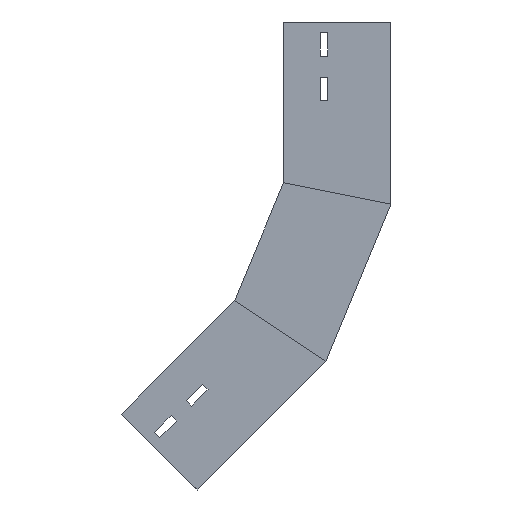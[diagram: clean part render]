
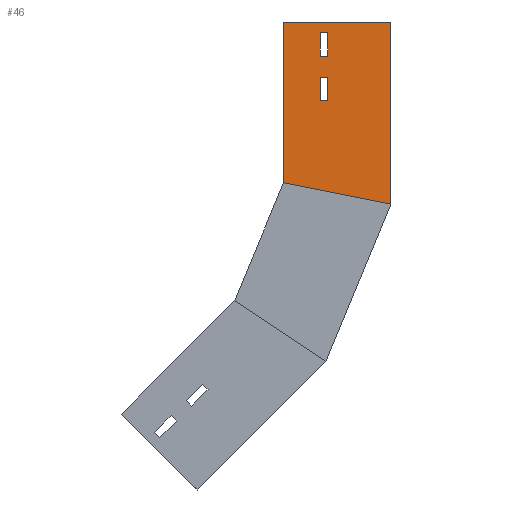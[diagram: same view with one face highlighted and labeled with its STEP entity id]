
A CAD part, left-side view. The second image highlights one B-rep face of the part: STEP entity #46.
In plain terms, the highlighted planar face has unit normal (-1, 0, 0) as drawn and (1, 0, 0) by its records, which use the part's own axes.
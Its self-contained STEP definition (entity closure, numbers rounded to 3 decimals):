
#2 = ORIENTED_EDGE ( 'NONE', *, *, #790, .F. ) ;
#7 = VECTOR ( 'NONE', #415, 1000. ) ;
#22 = ORIENTED_EDGE ( 'NONE', *, *, #1407, .F. ) ;
#39 = LINE ( 'NONE', #382, #481 ) ;
#46 = ADVANCED_FACE ( 'NONE', ( #465, #920, #1439 ), #69, .F. ) ;
#53 = EDGE_CURVE ( 'NONE', #1391, #267, #753, .T. ) ;
#61 = ORIENTED_EDGE ( 'NONE', *, *, #627, .F. ) ;
#64 = VERTEX_POINT ( 'NONE', #986 ) ;
#68 = LINE ( 'NONE', #672, #1149 ) ;
#69 = PLANE ( 'NONE',  #511 ) ;
#73 = CARTESIAN_POINT ( 'NONE',  ( 0., 60.655, -316.035 ) ) ;
#74 = LINE ( 'NONE', #766, #238 ) ;
#105 = DIRECTION ( 'NONE',  ( 0., 0.707, -0.707 ) ) ;
#132 = ORIENTED_EDGE ( 'NONE', *, *, #897, .T. ) ;
#193 = ORIENTED_EDGE ( 'NONE', *, *, #517, .T. ) ;
#198 = DIRECTION ( 'NONE',  ( 0., 0., 1. ) ) ;
#210 = VERTEX_POINT ( 'NONE', #1253 ) ;
#238 = VECTOR ( 'NONE', #654, 1000. ) ;
#246 = LINE ( 'NONE', #1289, #781 ) ;
#267 = VERTEX_POINT ( 'NONE', #1177 ) ;
#298 = EDGE_CURVE ( 'NONE', #210, #1015, #68, .T. ) ;
#325 = CARTESIAN_POINT ( 'NONE',  ( 0., 185.88, -357.821 ) ) ;
#339 = CARTESIAN_POINT ( 'NONE',  ( 0., 60.655, -316.035 ) ) ;
#359 = VECTOR ( 'NONE', #1285, 1000. ) ;
#382 = CARTESIAN_POINT ( 'NONE',  ( 0., 175.274, -337.315 ) ) ;
#386 = DIRECTION ( 'NONE',  ( 0., -0.707, -0.707 ) ) ;
#396 = ORIENTED_EDGE ( 'NONE', *, *, #447, .F. ) ;
#415 = DIRECTION ( 'NONE',  ( 0., -0.707, 0.707 ) ) ;
#419 = EDGE_CURVE ( 'NONE', #1197, #1089, #571, .T. ) ;
#437 = DIRECTION ( 'NONE',  ( 0., 0.707, 0.707 ) ) ;
#447 = EDGE_CURVE ( 'NONE', #487, #210, #563, .T. ) ;
#465 = FACE_BOUND ( 'NONE', #1073, .T. ) ;
#481 = VECTOR ( 'NONE', #887, 1000. ) ;
#487 = VERTEX_POINT ( 'NONE', #955 ) ;
#500 = VERTEX_POINT ( 'NONE', #1364 ) ;
#511 = AXIS2_PLACEMENT_3D ( 'NONE', #520, #1070, #198 ) ;
#514 = ORIENTED_EDGE ( 'NONE', *, *, #419, .T. ) ;
#516 = ORIENTED_EDGE ( 'NONE', *, *, #53, .F. ) ;
#517 = EDGE_CURVE ( 'NONE', #780, #1197, #246, .T. ) ;
#520 = CARTESIAN_POINT ( 'NONE',  ( 0., 60.655, -316.035 ) ) ;
#522 = CARTESIAN_POINT ( 'NONE',  ( 0., 220.295, -382.337 ) ) ;
#530 = LINE ( 'NONE', #522, #724 ) ;
#558 = VECTOR ( 'NONE', #796, 1000. ) ;
#563 = LINE ( 'NONE', #325, #558 ) ;
#569 = EDGE_CURVE ( 'NONE', #1015, #500, #1184, .T. ) ;
#571 = LINE ( 'NONE', #339, #661 ) ;
#603 = CARTESIAN_POINT ( 'NONE',  ( 0., 190.83, -352.872 ) ) ;
#625 = DIRECTION ( 'NONE',  ( 0., -0.831, -0.556 ) ) ;
#627 = EDGE_CURVE ( 'NONE', #64, #1283, #530, .T. ) ;
#644 = CARTESIAN_POINT ( 'NONE',  ( 0., 204.739, -366.78 ) ) ;
#651 = CARTESIAN_POINT ( 'NONE',  ( 0., 204.739, -366.78 ) ) ;
#652 = CARTESIAN_POINT ( 'NONE',  ( 0., 220.295, -382.337 ) ) ;
#654 = DIRECTION ( 'NONE',  ( 0., 0.707, -0.707 ) ) ;
#661 = VECTOR ( 'NONE', #800, 1000. ) ;
#671 = CARTESIAN_POINT ( 'NONE',  ( 0., 180.581, -435.96 ) ) ;
#672 = CARTESIAN_POINT ( 'NONE',  ( 0., 190.83, -352.872 ) ) ;
#691 = CARTESIAN_POINT ( 'NONE',  ( 0., 145.431, -259.389 ) ) ;
#724 = VECTOR ( 'NONE', #1212, 1000. ) ;
#751 = CARTESIAN_POINT ( 'NONE',  ( 0., 251.291, -365.25 ) ) ;
#753 = LINE ( 'NONE', #651, #849 ) ;
#766 = CARTESIAN_POINT ( 'NONE',  ( 0., 215.346, -387.287 ) ) ;
#772 = LINE ( 'NONE', #1214, #7 ) ;
#780 = VERTEX_POINT ( 'NONE', #691 ) ;
#781 = VECTOR ( 'NONE', #625, 1000. ) ;
#783 = CARTESIAN_POINT ( 'NONE',  ( 0., 131.366, -245.324 ) ) ;
#784 = DIRECTION ( 'NONE',  ( 0., 0.707, 0.707 ) ) ;
#790 = EDGE_CURVE ( 'NONE', #780, #846, #1257, .T. ) ;
#796 = DIRECTION ( 'NONE',  ( 0., 0.707, -0.707 ) ) ;
#800 = DIRECTION ( 'NONE',  ( 0., 0.707, -0.707 ) ) ;
#846 = VERTEX_POINT ( 'NONE', #751 ) ;
#849 = VECTOR ( 'NONE', #386, 1000. ) ;
#881 = LINE ( 'NONE', #671, #892 ) ;
#887 = DIRECTION ( 'NONE',  ( 0., -0.707, -0.707 ) ) ;
#892 = VECTOR ( 'NONE', #784, 1000. ) ;
#897 = EDGE_CURVE ( 'NONE', #1089, #846, #881, .T. ) ;
#915 = EDGE_LOOP ( 'NONE', ( #973, #1352, #396, #1141 ) ) ;
#920 = FACE_BOUND ( 'NONE', #915, .T. ) ;
#955 = CARTESIAN_POINT ( 'NONE',  ( 0., 170.324, -342.265 ) ) ;
#973 = ORIENTED_EDGE ( 'NONE', *, *, #569, .F. ) ;
#986 = CARTESIAN_POINT ( 'NONE',  ( 0., 215.346, -387.287 ) ) ;
#1015 = VERTEX_POINT ( 'NONE', #603 ) ;
#1030 = EDGE_CURVE ( 'NONE', #500, #487, #39, .T. ) ;
#1070 = DIRECTION ( 'NONE',  ( -1., 0., 0. ) ) ;
#1073 = EDGE_LOOP ( 'NONE', ( #22, #61, #1420, #516 ) ) ;
#1089 = VERTEX_POINT ( 'NONE', #1206 ) ;
#1093 = EDGE_CURVE ( 'NONE', #267, #64, #74, .T. ) ;
#1141 = ORIENTED_EDGE ( 'NONE', *, *, #1030, .F. ) ;
#1149 = VECTOR ( 'NONE', #437, 1000. ) ;
#1177 = CARTESIAN_POINT ( 'NONE',  ( 0., 199.789, -371.73 ) ) ;
#1184 = LINE ( 'NONE', #1300, #359 ) ;
#1197 = VERTEX_POINT ( 'NONE', #73 ) ;
#1206 = CARTESIAN_POINT ( 'NONE',  ( 0., 180.581, -435.96 ) ) ;
#1212 = DIRECTION ( 'NONE',  ( 0., 0.707, 0.707 ) ) ;
#1214 = CARTESIAN_POINT ( 'NONE',  ( 0., 220.295, -382.337 ) ) ;
#1253 = CARTESIAN_POINT ( 'NONE',  ( 0., 185.88, -357.821 ) ) ;
#1257 = LINE ( 'NONE', #783, #1358 ) ;
#1283 = VERTEX_POINT ( 'NONE', #652 ) ;
#1285 = DIRECTION ( 'NONE',  ( 0., -0.707, 0.707 ) ) ;
#1289 = CARTESIAN_POINT ( 'NONE',  ( 0., 86.366, -298.856 ) ) ;
#1300 = CARTESIAN_POINT ( 'NONE',  ( 0., 190.83, -352.872 ) ) ;
#1352 = ORIENTED_EDGE ( 'NONE', *, *, #298, .F. ) ;
#1358 = VECTOR ( 'NONE', #105, 1000. ) ;
#1364 = CARTESIAN_POINT ( 'NONE',  ( 0., 175.274, -337.315 ) ) ;
#1391 = VERTEX_POINT ( 'NONE', #644 ) ;
#1407 = EDGE_CURVE ( 'NONE', #1283, #1391, #772, .T. ) ;
#1420 = ORIENTED_EDGE ( 'NONE', *, *, #1093, .F. ) ;
#1439 = FACE_OUTER_BOUND ( 'NONE', #1440, .T. ) ;
#1440 = EDGE_LOOP ( 'NONE', ( #193, #514, #132, #2 ) ) ;
